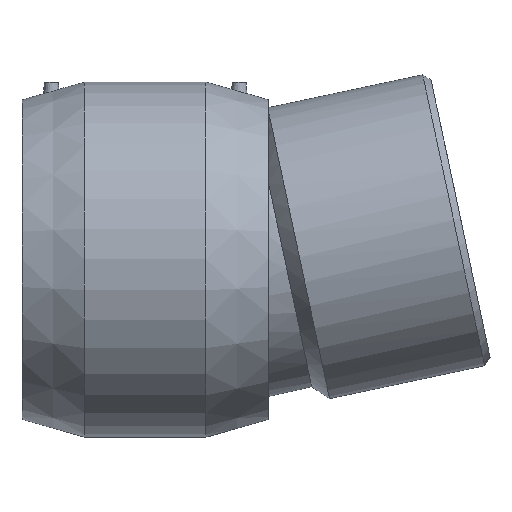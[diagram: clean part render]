
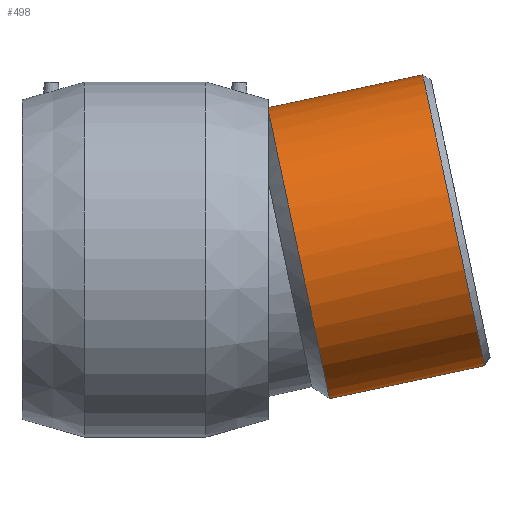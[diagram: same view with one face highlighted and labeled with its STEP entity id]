
A CAD part, top view. The second image highlights one B-rep face of the part: STEP entity #498.
In plain terms, the highlighted cylindrical face has radius 161.7 mm (diameter 323.4 mm), a full revolution.
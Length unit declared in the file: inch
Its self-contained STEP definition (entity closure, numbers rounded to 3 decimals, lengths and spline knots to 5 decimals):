
#37=ELLIPSE('',#557,6.50837,6.36614);
#38=ELLIPSE('',#559,6.50837,6.36614);
#47=CYLINDRICAL_SURFACE('',#556,6.36614);
#60=LINE('',#874,#76);
#76=VECTOR('',#659,6.36614);
#100=FACE_OUTER_BOUND('',#132,.T.);
#132=EDGE_LOOP('',(#355,#356,#357,#358,#359,#360,#361));
#182=CIRCLE('',#553,6.36614);
#183=CIRCLE('',#554,6.36614);
#185=CIRCLE('',#558,6.36614);
#225=VERTEX_POINT('',#860);
#226=VERTEX_POINT('',#861);
#228=VERTEX_POINT('',#868);
#229=VERTEX_POINT('',#869);
#230=VERTEX_POINT('',#871);
#276=EDGE_CURVE('',#225,#226,#182,.T.);
#277=EDGE_CURVE('',#226,#225,#183,.T.);
#280=EDGE_CURVE('',#228,#229,#37,.T.);
#281=EDGE_CURVE('',#230,#228,#185,.T.);
#282=EDGE_CURVE('',#229,#230,#38,.T.);
#283=EDGE_CURVE('',#229,#226,#60,.T.);
#355=ORIENTED_EDGE('',*,*,#280,.F.);
#356=ORIENTED_EDGE('',*,*,#281,.F.);
#357=ORIENTED_EDGE('',*,*,#282,.F.);
#358=ORIENTED_EDGE('',*,*,#283,.T.);
#359=ORIENTED_EDGE('',*,*,#276,.F.);
#360=ORIENTED_EDGE('',*,*,#277,.F.);
#361=ORIENTED_EDGE('',*,*,#283,.F.);
#498=ADVANCED_FACE('',(#100),#47,.T.);
#553=AXIS2_PLACEMENT_3D('',#862,#644,#645);
#554=AXIS2_PLACEMENT_3D('',#863,#646,#647);
#556=AXIS2_PLACEMENT_3D('',#867,#651,#652);
#557=AXIS2_PLACEMENT_3D('',#870,#653,#654);
#558=AXIS2_PLACEMENT_3D('',#872,#655,#656);
#559=AXIS2_PLACEMENT_3D('',#873,#657,#658);
#644=DIRECTION('center_axis',(0.978,0.208,0.));
#645=DIRECTION('ref_axis',(-0.208,0.978,0.));
#646=DIRECTION('center_axis',(0.978,0.208,0.));
#647=DIRECTION('ref_axis',(-0.208,0.978,0.));
#651=DIRECTION('center_axis',(-0.978,-0.208,0.));
#652=DIRECTION('ref_axis',(0.208,-0.978,0.));
#653=DIRECTION('center_axis',(-1.,0.,0.));
#654=DIRECTION('ref_axis',(0.,-1.,0.));
#655=DIRECTION('center_axis',(-0.978,-0.208,0.));
#656=DIRECTION('ref_axis',(0.208,-0.978,0.));
#657=DIRECTION('center_axis',(-1.,0.,0.));
#658=DIRECTION('ref_axis',(0.,-1.,0.));
#659=DIRECTION('',(0.978,0.208,0.));
#860=CARTESIAN_POINT('',(14.52639,-4.54219,0.));
#861=CARTESIAN_POINT('',(11.8792,7.91187,0.));
#862=CARTESIAN_POINT('Origin',(13.2028,1.68484,0.));
#863=CARTESIAN_POINT('Origin',(13.2028,1.68484,0.));
#867=CARTESIAN_POINT('Origin',(10.03262,1.011,0.));
#868=CARTESIAN_POINT('',(5.27625,6.33746,1.44932));
#869=CARTESIAN_POINT('',(5.27625,6.50837,0.));
#870=CARTESIAN_POINT('Origin',(5.27625,0.,0.));
#871=CARTESIAN_POINT('',(5.27625,6.33746,-1.44932));
#872=CARTESIAN_POINT('Origin',(6.56509,0.27395,0.));
#873=CARTESIAN_POINT('Origin',(5.27625,0.,0.));
#874=CARTESIAN_POINT('',(8.70903,7.23802,0.));
